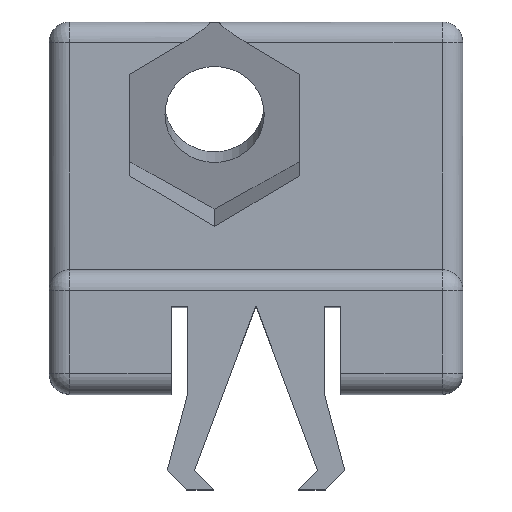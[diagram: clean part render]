
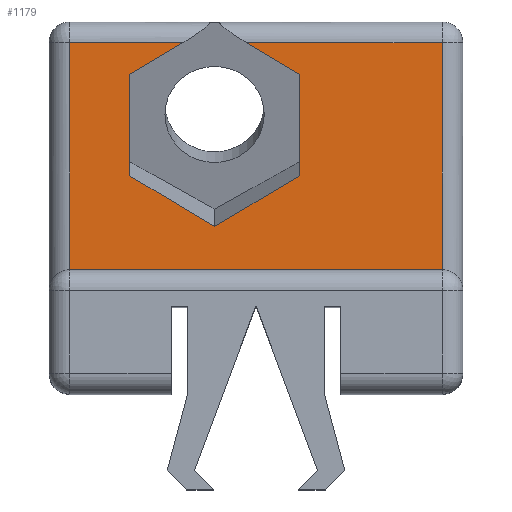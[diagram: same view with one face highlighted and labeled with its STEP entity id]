
A CAD part, top view. The second image highlights one B-rep face of the part: STEP entity #1179.
In plain terms, the highlighted planar face has unit normal (0, 0, 1).
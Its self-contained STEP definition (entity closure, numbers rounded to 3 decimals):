
#19=PLANE('',#1264);
#63=LINE('',#1728,#196);
#66=LINE('',#1738,#199);
#68=LINE('',#1745,#201);
#84=LINE('',#1788,#217);
#85=LINE('',#1789,#218);
#86=LINE('',#1791,#219);
#87=LINE('',#1793,#220);
#88=LINE('',#1795,#221);
#89=LINE('',#1797,#222);
#90=LINE('',#1799,#223);
#91=LINE('',#1800,#224);
#196=VECTOR('',#1369,10.);
#199=VECTOR('',#1378,10.);
#201=VECTOR('',#1384,10.);
#217=VECTOR('',#1422,10.);
#218=VECTOR('',#1423,10.);
#219=VECTOR('',#1424,10.);
#220=VECTOR('',#1425,10.);
#221=VECTOR('',#1426,10.);
#222=VECTOR('',#1427,10.);
#223=VECTOR('',#1428,10.);
#224=VECTOR('',#1429,10.);
#358=FACE_OUTER_BOUND('',#430,.T.);
#430=EDGE_LOOP('',(#853,#854,#855,#856,#857,#858,#859,#860,#861,#862,#863));
#531=VERTEX_POINT('',#1721);
#533=VERTEX_POINT('',#1727);
#536=VERTEX_POINT('',#1735);
#537=VERTEX_POINT('',#1737);
#540=VERTEX_POINT('',#1743);
#556=VERTEX_POINT('',#1787);
#557=VERTEX_POINT('',#1790);
#558=VERTEX_POINT('',#1792);
#559=VERTEX_POINT('',#1794);
#560=VERTEX_POINT('',#1796);
#561=VERTEX_POINT('',#1798);
#639=EDGE_CURVE('',#531,#533,#63,.T.);
#644=EDGE_CURVE('',#536,#537,#66,.T.);
#648=EDGE_CURVE('',#540,#531,#68,.T.);
#669=EDGE_CURVE('',#556,#536,#84,.T.);
#670=EDGE_CURVE('',#533,#556,#85,.T.);
#671=EDGE_CURVE('',#540,#557,#86,.T.);
#672=EDGE_CURVE('',#557,#558,#87,.T.);
#673=EDGE_CURVE('',#558,#559,#88,.T.);
#674=EDGE_CURVE('',#559,#560,#89,.T.);
#675=EDGE_CURVE('',#560,#561,#90,.T.);
#676=EDGE_CURVE('',#561,#537,#91,.T.);
#853=ORIENTED_EDGE('',*,*,#644,.F.);
#854=ORIENTED_EDGE('',*,*,#669,.F.);
#855=ORIENTED_EDGE('',*,*,#670,.F.);
#856=ORIENTED_EDGE('',*,*,#639,.F.);
#857=ORIENTED_EDGE('',*,*,#648,.F.);
#858=ORIENTED_EDGE('',*,*,#671,.T.);
#859=ORIENTED_EDGE('',*,*,#672,.T.);
#860=ORIENTED_EDGE('',*,*,#673,.T.);
#861=ORIENTED_EDGE('',*,*,#674,.T.);
#862=ORIENTED_EDGE('',*,*,#675,.T.);
#863=ORIENTED_EDGE('',*,*,#676,.T.);
#1179=ADVANCED_FACE('',(#358),#19,.F.);
#1264=AXIS2_PLACEMENT_3D('',#1786,#1420,#1421);
#1369=DIRECTION('',(0.,-1.,0.));
#1378=DIRECTION('',(1.,0.,0.));
#1384=DIRECTION('',(1.,0.,0.));
#1420=DIRECTION('center_axis',(0.,0.,-1.));
#1421=DIRECTION('ref_axis',(0.,1.,0.));
#1422=DIRECTION('',(0.,1.,0.));
#1423=DIRECTION('',(-1.,0.,0.));
#1424=DIRECTION('',(0.858,-0.513,0.));
#1425=DIRECTION('',(0.,-1.,0.));
#1426=DIRECTION('',(-0.858,-0.513,0.));
#1427=DIRECTION('',(-0.858,0.513,0.));
#1428=DIRECTION('',(0.,1.,0.));
#1429=DIRECTION('',(0.858,0.513,0.));
#1721=CARTESIAN_POINT('',(4.5,8.5,2.5));
#1727=CARTESIAN_POINT('',(4.5,3.,2.5));
#1728=CARTESIAN_POINT('',(4.5,3.75,2.5));
#1735=CARTESIAN_POINT('',(-4.5,8.5,2.5));
#1737=CARTESIAN_POINT('',(-1.766,8.5,2.5));
#1738=CARTESIAN_POINT('',(0.,8.5,2.5));
#1743=CARTESIAN_POINT('',(-0.234,8.5,2.5));
#1745=CARTESIAN_POINT('',(0.,8.5,2.5));
#1786=CARTESIAN_POINT('Origin',(0.,6.,2.5));
#1787=CARTESIAN_POINT('',(-4.5,3.,2.5));
#1788=CARTESIAN_POINT('',(-4.5,3.75,2.5));
#1789=CARTESIAN_POINT('',(1.125,3.,2.5));
#1790=CARTESIAN_POINT('',(1.05,7.733,2.5));
#1791=CARTESIAN_POINT('',(1.006,7.759,2.5));
#1792=CARTESIAN_POINT('',(1.05,5.282,2.5));
#1793=CARTESIAN_POINT('',(1.05,5.811,2.5));
#1794=CARTESIAN_POINT('',(-1.,4.057,2.5));
#1795=CARTESIAN_POINT('',(-0.111,4.588,2.5));
#1796=CARTESIAN_POINT('',(-3.05,5.282,2.5));
#1797=CARTESIAN_POINT('',(-2.16,4.75,2.5));
#1798=CARTESIAN_POINT('',(-3.05,7.733,2.5));
#1799=CARTESIAN_POINT('',(-3.05,6.955,2.5));
#1800=CARTESIAN_POINT('',(-1.262,8.801,2.5));
